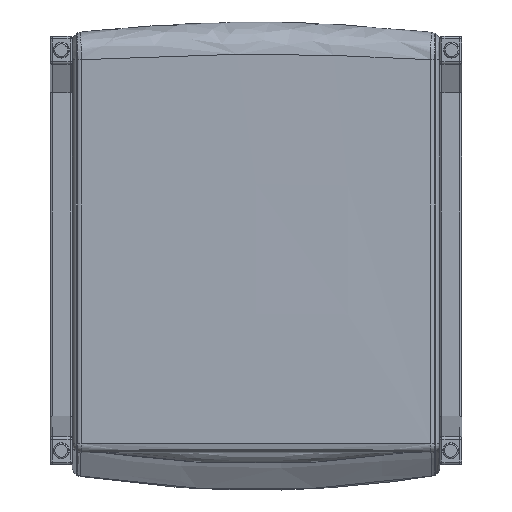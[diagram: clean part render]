
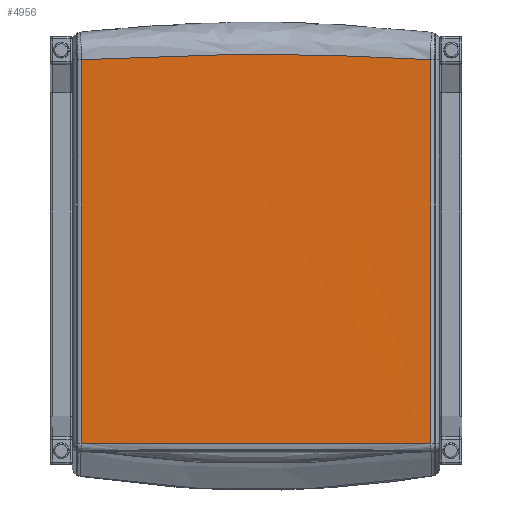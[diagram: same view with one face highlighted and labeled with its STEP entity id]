
A CAD part, front view. The second image highlights one B-rep face of the part: STEP entity #4956.
In plain terms, the highlighted free-form (B-spline) face has degree [3, 3] with [4, 11] control points.
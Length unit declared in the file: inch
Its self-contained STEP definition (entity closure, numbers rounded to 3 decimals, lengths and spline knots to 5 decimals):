
#38=B_SPLINE_SURFACE_WITH_KNOTS('',3,3,((#10395,#10396,#10397,#10398,#10399,
#10400,#10401,#10402,#10403,#10404,#10405),(#10406,#10407,#10408,#10409,
#10410,#10411,#10412,#10413,#10414,#10415,#10416),(#10417,#10418,#10419,
#10420,#10421,#10422,#10423,#10424,#10425,#10426,#10427),(#10428,#10429,
#10430,#10431,#10432,#10433,#10434,#10435,#10436,#10437,#10438)),
 .UNSPECIFIED.,.F.,.F.,.F.,(4,4),(4,1,1,1,1,1,1,1,4),(0.,0.9753),
(0.02541,0.12523,0.25027,0.37517,
0.5,0.62483,0.74973,0.87477,0.97459),
 .UNSPECIFIED.);
#255=B_SPLINE_CURVE_WITH_KNOTS('',3,(#8792,#8793,#8794,#8795),
 .UNSPECIFIED.,.F.,.F.,(4,4),(-51.67474,0.),
 .UNSPECIFIED.);
#280=B_SPLINE_CURVE_WITH_KNOTS('',3,(#9997,#9998,#9999,#10000,#10001,#10002,
#10003,#10004,#10005,#10006,#10007),.UNSPECIFIED.,.F.,.F.,(4,1,1,1,1,1,
1,1,4),(1.27098,6.20678,12.40415,18.59475,
24.78167,30.9686,37.1592,43.35657,48.29236),
 .UNSPECIFIED.);
#284=B_SPLINE_CURVE_WITH_KNOTS('',3,(#10391,#10392,#10393,#10394),
 .UNSPECIFIED.,.F.,.F.,(4,4),(1.27096,1.27098),
 .UNSPECIFIED.);
#285=B_SPLINE_CURVE_WITH_KNOTS('',3,(#10440,#10441,#10442,#10443),
 .UNSPECIFIED.,.F.,.F.,(4,4),(0.,51.67474),
 .UNSPECIFIED.);
#286=B_SPLINE_CURVE_WITH_KNOTS('',3,(#10444,#10445,#10446,#10447),
 .UNSPECIFIED.,.F.,.F.,(4,4),(48.29236,48.29239),
 .UNSPECIFIED.);
#287=B_SPLINE_CURVE_WITH_KNOTS('',3,(#10448,#10449,#10450,#10451,#10452,
#10453,#10454,#10455,#10456,#10457,#10458,#10459),.UNSPECIFIED.,.F.,.F.,
(4,1,1,1,2,1,1,1,4),(-48.24856,-43.30644,-37.11603,
-30.93267,-24.7532,-18.57373,-12.39037,
-6.19996,-1.25784),.UNSPECIFIED.);
#736=FACE_OUTER_BOUND('',#1067,.T.);
#1067=EDGE_LOOP('',(#4136,#4137,#4138,#4139,#4140,#4141));
#2195=VERTEX_POINT('',#8789);
#2196=VERTEX_POINT('',#8791);
#2216=VERTEX_POINT('',#9273);
#2218=VERTEX_POINT('',#9806);
#2227=VERTEX_POINT('',#9984);
#2228=VERTEX_POINT('',#10439);
#2838=EDGE_CURVE('',#2195,#2196,#255,.T.);
#2881=EDGE_CURVE('',#2227,#2218,#280,.T.);
#2886=EDGE_CURVE('',#2196,#2227,#284,.T.);
#2887=EDGE_CURVE('',#2228,#2216,#285,.T.);
#2888=EDGE_CURVE('',#2218,#2228,#286,.T.);
#2889=EDGE_CURVE('',#2216,#2195,#287,.T.);
#4136=ORIENTED_EDGE('',*,*,#2887,.F.);
#4137=ORIENTED_EDGE('',*,*,#2888,.F.);
#4138=ORIENTED_EDGE('',*,*,#2881,.F.);
#4139=ORIENTED_EDGE('',*,*,#2886,.F.);
#4140=ORIENTED_EDGE('',*,*,#2838,.F.);
#4141=ORIENTED_EDGE('',*,*,#2889,.F.);
#4956=ADVANCED_FACE('',(#736),#38,.T.);
#8789=CARTESIAN_POINT('',(1.99541,14.12034,1.13968));
#8791=CARTESIAN_POINT('',(1.99956,14.12416,21.48414));
#8792=CARTESIAN_POINT('Ctrl Pts',(1.99541,14.12034,1.13968));
#8793=CARTESIAN_POINT('Ctrl Pts',(1.99658,14.12147,7.92111));
#8794=CARTESIAN_POINT('Ctrl Pts',(1.99751,14.122,14.7026));
#8795=CARTESIAN_POINT('Ctrl Pts',(1.99956,14.12416,21.48414));
#9273=CARTESIAN_POINT('',(20.50459,14.12034,1.13968));
#9806=CARTESIAN_POINT('',(20.50043,14.12416,21.48414));
#9984=CARTESIAN_POINT('',(1.99957,14.12416,21.48414));
#9997=CARTESIAN_POINT('Ctrl Pts',(1.99957,14.12416,21.48414));
#9998=CARTESIAN_POINT('Ctrl Pts',(2.64626,14.12361,21.52112));
#9999=CARTESIAN_POINT('Ctrl Pts',(4.10499,14.12651,21.60376));
#10000=CARTESIAN_POINT('Ctrl Pts',(6.37676,14.12514,21.69445));
#10001=CARTESIAN_POINT('Ctrl Pts',(8.81368,14.1252,21.75733));
#10002=CARTESIAN_POINT('Ctrl Pts',(11.25,14.1249,21.77851));
#10003=CARTESIAN_POINT('Ctrl Pts',(13.68632,14.1252,21.75733));
#10004=CARTESIAN_POINT('Ctrl Pts',(16.12324,14.12514,21.69445));
#10005=CARTESIAN_POINT('Ctrl Pts',(18.39501,14.12651,21.60376));
#10006=CARTESIAN_POINT('Ctrl Pts',(19.85374,14.12361,21.52112));
#10007=CARTESIAN_POINT('Ctrl Pts',(20.50043,14.12416,21.48414));
#10391=CARTESIAN_POINT('Ctrl Pts',(1.99956,14.12416,21.48414));
#10392=CARTESIAN_POINT('Ctrl Pts',(1.99957,14.12416,21.48414));
#10393=CARTESIAN_POINT('Ctrl Pts',(1.99957,14.12416,21.48414));
#10394=CARTESIAN_POINT('Ctrl Pts',(1.99957,14.12416,21.48414));
#10395=CARTESIAN_POINT('Ctrl Pts',(1.99495,14.12417,21.48388));
#10396=CARTESIAN_POINT('Ctrl Pts',(2.64318,14.1236,21.52095));
#10397=CARTESIAN_POINT('Ctrl Pts',(4.10345,14.12651,21.6037));
#10398=CARTESIAN_POINT('Ctrl Pts',(6.37676,14.12514,21.69445));
#10399=CARTESIAN_POINT('Ctrl Pts',(8.81368,14.1252,21.75733));
#10400=CARTESIAN_POINT('Ctrl Pts',(11.25,14.1249,21.77851));
#10401=CARTESIAN_POINT('Ctrl Pts',(13.68632,14.1252,21.75733));
#10402=CARTESIAN_POINT('Ctrl Pts',(16.12324,14.12514,21.69445));
#10403=CARTESIAN_POINT('Ctrl Pts',(18.39655,14.12651,21.6037));
#10404=CARTESIAN_POINT('Ctrl Pts',(19.85682,14.1236,21.52095));
#10405=CARTESIAN_POINT('Ctrl Pts',(20.50505,14.12417,21.48388));
#10406=CARTESIAN_POINT('Ctrl Pts',(1.99447,14.12202,14.67261));
#10407=CARTESIAN_POINT('Ctrl Pts',(2.64212,14.11877,14.66589));
#10408=CARTESIAN_POINT('Ctrl Pts',(4.10188,14.11676,14.68516));
#10409=CARTESIAN_POINT('Ctrl Pts',(6.37554,14.11095,14.76377));
#10410=CARTESIAN_POINT('Ctrl Pts',(8.81375,14.10903,14.86234));
#10411=CARTESIAN_POINT('Ctrl Pts',(11.25,14.10843,14.91351));
#10412=CARTESIAN_POINT('Ctrl Pts',(13.68625,14.10903,14.86234));
#10413=CARTESIAN_POINT('Ctrl Pts',(16.12446,14.11095,14.76377));
#10414=CARTESIAN_POINT('Ctrl Pts',(18.39812,14.11676,14.68516));
#10415=CARTESIAN_POINT('Ctrl Pts',(19.85788,14.11877,14.66589));
#10416=CARTESIAN_POINT('Ctrl Pts',(20.50553,14.12202,14.67261));
#10417=CARTESIAN_POINT('Ctrl Pts',(1.99524,14.12148,7.91496));
#10418=CARTESIAN_POINT('Ctrl Pts',(2.64386,14.11704,7.92653));
#10419=CARTESIAN_POINT('Ctrl Pts',(4.10509,14.10855,7.95251));
#10420=CARTESIAN_POINT('Ctrl Pts',(6.37848,14.0991,7.98761));
#10421=CARTESIAN_POINT('Ctrl Pts',(8.81479,14.09339,8.0144));
#10422=CARTESIAN_POINT('Ctrl Pts',(11.25,14.09168,8.02499));
#10423=CARTESIAN_POINT('Ctrl Pts',(13.68521,14.09339,8.0144));
#10424=CARTESIAN_POINT('Ctrl Pts',(16.12152,14.0991,7.98761));
#10425=CARTESIAN_POINT('Ctrl Pts',(18.39491,14.10855,7.95251));
#10426=CARTESIAN_POINT('Ctrl Pts',(19.85614,14.11704,7.92653));
#10427=CARTESIAN_POINT('Ctrl Pts',(20.50476,14.12148,7.91496));
#10428=CARTESIAN_POINT('Ctrl Pts',(1.99541,14.12034,1.13272));
#10429=CARTESIAN_POINT('Ctrl Pts',(2.64424,14.11439,1.13442));
#10430=CARTESIAN_POINT('Ctrl Pts',(4.10583,14.10223,1.13802));
#10431=CARTESIAN_POINT('Ctrl Pts',(6.37929,14.08778,1.14252));
#10432=CARTESIAN_POINT('Ctrl Pts',(8.81532,14.0781,1.1457));
#10433=CARTESIAN_POINT('Ctrl Pts',(11.25,14.07477,1.14686));
#10434=CARTESIAN_POINT('Ctrl Pts',(13.68468,14.0781,1.1457));
#10435=CARTESIAN_POINT('Ctrl Pts',(16.12071,14.08778,1.14252));
#10436=CARTESIAN_POINT('Ctrl Pts',(18.39417,14.10223,1.13802));
#10437=CARTESIAN_POINT('Ctrl Pts',(19.85576,14.11439,1.13442));
#10438=CARTESIAN_POINT('Ctrl Pts',(20.50459,14.12034,1.13272));
#10439=CARTESIAN_POINT('',(20.50044,14.12416,21.48414));
#10440=CARTESIAN_POINT('Ctrl Pts',(20.50044,14.12416,21.48414));
#10441=CARTESIAN_POINT('Ctrl Pts',(20.50249,14.122,14.7026));
#10442=CARTESIAN_POINT('Ctrl Pts',(20.50342,14.12147,7.92111));
#10443=CARTESIAN_POINT('Ctrl Pts',(20.50459,14.12034,1.13968));
#10444=CARTESIAN_POINT('Ctrl Pts',(20.50043,14.12416,21.48414));
#10445=CARTESIAN_POINT('Ctrl Pts',(20.50043,14.12416,21.48414));
#10446=CARTESIAN_POINT('Ctrl Pts',(20.50043,14.12416,21.48414));
#10447=CARTESIAN_POINT('Ctrl Pts',(20.50044,14.12416,21.48414));
#10448=CARTESIAN_POINT('Ctrl Pts',(20.50459,14.12034,1.13968));
#10449=CARTESIAN_POINT('Ctrl Pts',(19.85576,14.11439,1.14052));
#10450=CARTESIAN_POINT('Ctrl Pts',(18.3942,14.10223,1.14232));
#10451=CARTESIAN_POINT('Ctrl Pts',(16.12077,14.08779,1.14454));
#10452=CARTESIAN_POINT('Ctrl Pts',(13.68473,14.0781,1.1461));
#10453=CARTESIAN_POINT('Ctrl Pts',(12.06141,14.07588,1.14647));
#10454=CARTESIAN_POINT('Ctrl Pts',(10.43859,14.07588,1.14647));
#10455=CARTESIAN_POINT('Ctrl Pts',(8.81527,14.0781,1.1461));
#10456=CARTESIAN_POINT('Ctrl Pts',(6.37923,14.08779,1.14454));
#10457=CARTESIAN_POINT('Ctrl Pts',(4.1058,14.10223,1.14232));
#10458=CARTESIAN_POINT('Ctrl Pts',(2.64424,14.11439,1.14052));
#10459=CARTESIAN_POINT('Ctrl Pts',(1.99541,14.12034,1.13968));
